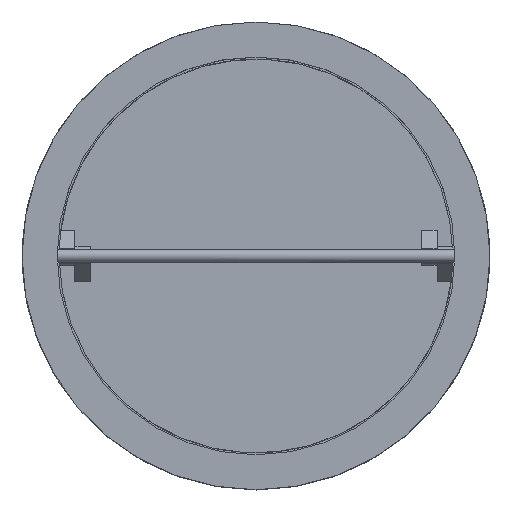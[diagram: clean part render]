
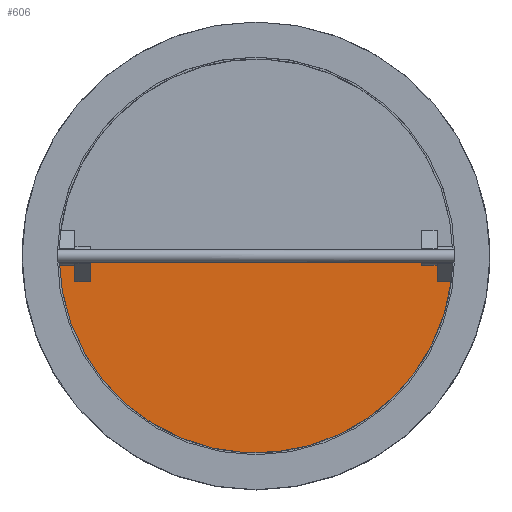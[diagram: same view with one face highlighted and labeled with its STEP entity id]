
A CAD part, top view. The second image highlights one B-rep face of the part: STEP entity #606.
In plain terms, the highlighted planar face has unit normal (0, 0, 1).
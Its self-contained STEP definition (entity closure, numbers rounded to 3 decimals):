
#606=ADVANCED_FACE('',(#1177),#1179,.T.);
#1177=FACE_BOUND('',#1178,.T.);
#1178=EDGE_LOOP('',(#1583,#1584,#1585,#1586,#1587,#1588,#1589,#1590));
#1179=PLANE('',#1180);
#1180=AXIS2_PLACEMENT_3D('',#1181,#1182,#1183);
#1181=CARTESIAN_POINT('',(0.,0.,64.));
#1182=DIRECTION('',(0.,0.,1.));
#1183=DIRECTION('',(0.,1.,0.));
#1583=ORIENTED_EDGE('',*,*,#1824,.F.);
#1584=ORIENTED_EDGE('',*,*,#1825,.F.);
#1585=ORIENTED_EDGE('',*,*,#1772,.T.);
#1586=ORIENTED_EDGE('',*,*,#1782,.T.);
#1587=ORIENTED_EDGE('',*,*,#1826,.F.);
#1588=ORIENTED_EDGE('',*,*,#1827,.F.);
#1589=ORIENTED_EDGE('',*,*,#1776,.T.);
#1590=ORIENTED_EDGE('',*,*,#1828,.F.);
#1772=EDGE_CURVE('',#2059,#2057,#2060,.T.);
#1776=EDGE_CURVE('',#2067,#2065,#2068,.T.);
#1782=EDGE_CURVE('',#2057,#2076,#2078,.T.);
#1824=EDGE_CURVE('',#2145,#2146,#2147,.T.);
#1825=EDGE_CURVE('',#2059,#2145,#2148,.T.);
#1826=EDGE_CURVE('',#2149,#2076,#2150,.T.);
#1827=EDGE_CURVE('',#2067,#2149,#2151,.T.);
#1828=EDGE_CURVE('',#2146,#2065,#2152,.F.);
#2057=VERTEX_POINT('',#3714);
#2059=VERTEX_POINT('',#3718);
#2060=LINE('',#3719,#3720);
#2065=VERTEX_POINT('',#3730);
#2067=VERTEX_POINT('',#3734);
#2068=LINE('',#3735,#3736);
#2076=VERTEX_POINT('',#3792);
#2078=CIRCLE('',#3797,250.);
#2145=VERTEX_POINT('',#4126);
#2146=VERTEX_POINT('',#4127);
#2147=LINE('',#4128,#4129);
#2148=LINE('',#4131,#4132);
#2149=VERTEX_POINT('',#4134);
#2150=LINE('',#4135,#4136);
#2151=LINE('',#4138,#4139);
#2152=LINE('',#4141,#4142);
#3714=CARTESIAN_POINT('',(-249.968,-4.,64.));
#3718=CARTESIAN_POINT('',(-230.032,-4.,64.));
#3719=CARTESIAN_POINT('',(-230.032,-4.,64.));
#3720=VECTOR('',#3721,1.);
#3721=DIRECTION('',(-1.,0.,0.));
#3730=CARTESIAN_POINT('',(-210.032,-4.,64.));
#3734=CARTESIAN_POINT('',(229.968,-4.,64.));
#3735=CARTESIAN_POINT('',(229.968,-4.,64.));
#3736=VECTOR('',#3737,1.);
#3737=DIRECTION('',(-1.,0.,0.));
#3792=CARTESIAN_POINT('',(247.885,-32.447,64.));
#3797=AXIS2_PLACEMENT_3D('',#3798,#3799,#3800);
#3798=CARTESIAN_POINT('',(0.,0.,64.));
#3799=DIRECTION('',(0.,0.,1.));
#3800=DIRECTION('',(-1.,-0.016,0.));
#4126=CARTESIAN_POINT('',(-230.032,-32.447,64.));
#4127=CARTESIAN_POINT('',(-210.032,-32.447,64.));
#4128=CARTESIAN_POINT('',(-230.032,-32.447,64.));
#4129=VECTOR('',#4130,1.);
#4130=DIRECTION('',(1.,0.,0.));
#4131=CARTESIAN_POINT('',(-230.032,-4.,64.));
#4132=VECTOR('',#4133,1.);
#4133=DIRECTION('',(0.,-1.,0.));
#4134=CARTESIAN_POINT('',(229.968,-32.447,64.));
#4135=CARTESIAN_POINT('',(229.968,-32.447,64.));
#4136=VECTOR('',#4137,1.);
#4137=DIRECTION('',(1.,0.,0.));
#4138=CARTESIAN_POINT('',(229.968,-4.,64.));
#4139=VECTOR('',#4140,1.);
#4140=DIRECTION('',(0.,-1.,0.));
#4141=CARTESIAN_POINT('',(-210.032,-4.,64.));
#4142=VECTOR('',#4143,1.);
#4143=DIRECTION('',(0.,-1.,0.));
